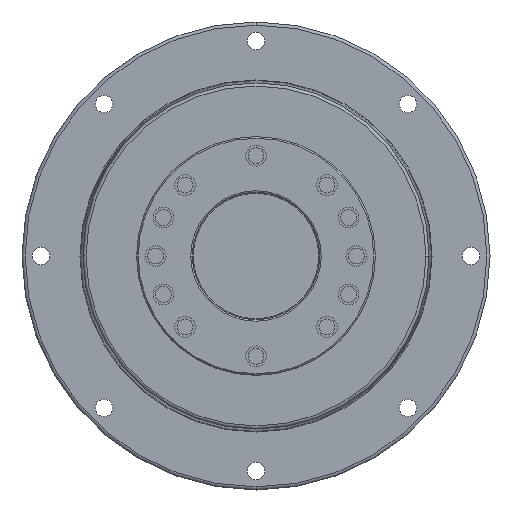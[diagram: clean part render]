
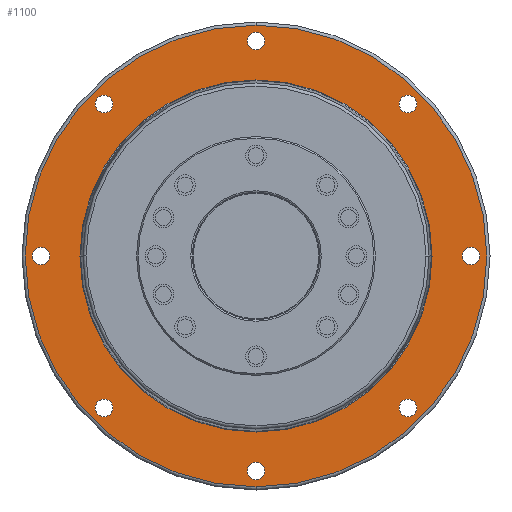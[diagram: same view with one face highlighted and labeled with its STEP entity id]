
A CAD part, left-side view. The second image highlights one B-rep face of the part: STEP entity #1100.
In plain terms, the highlighted planar face has unit normal (-1, 0, 0).
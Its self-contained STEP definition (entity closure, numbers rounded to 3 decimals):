
#273=CARTESIAN_POINT('',(22.,67.5,0.));
#274=DIRECTION('',(-1.,0.,0.));
#275=DIRECTION('',(0.,0.,1.));
#276=AXIS2_PLACEMENT_3D('',#273,#274,#275);
#278=CARTESIAN_POINT('',(22.,67.5,0.));
#279=DIRECTION('',(-1.,0.,0.));
#280=DIRECTION('',(0.,0.,-1.));
#281=AXIS2_PLACEMENT_3D('',#278,#279,#280);
#283=CARTESIAN_POINT('',(22.,47.73,47.73));
#284=DIRECTION('',(-1.,0.,0.));
#285=DIRECTION('',(0.,-0.707,0.707));
#286=AXIS2_PLACEMENT_3D('',#283,#284,#285);
#288=CARTESIAN_POINT('',(22.,47.73,47.73));
#289=DIRECTION('',(-1.,0.,0.));
#290=DIRECTION('',(0.,0.707,-0.707));
#291=AXIS2_PLACEMENT_3D('',#288,#289,#290);
#293=CARTESIAN_POINT('',(22.,0.,67.5));
#294=DIRECTION('',(-1.,0.,0.));
#295=DIRECTION('',(0.,-1.,0.));
#296=AXIS2_PLACEMENT_3D('',#293,#294,#295);
#298=CARTESIAN_POINT('',(22.,0.,67.5));
#299=DIRECTION('',(-1.,0.,0.));
#300=DIRECTION('',(0.,1.,0.));
#301=AXIS2_PLACEMENT_3D('',#298,#299,#300);
#303=CARTESIAN_POINT('',(22.,-47.73,47.73));
#304=DIRECTION('',(-1.,0.,0.));
#305=DIRECTION('',(0.,-0.707,-0.707));
#306=AXIS2_PLACEMENT_3D('',#303,#304,#305);
#308=CARTESIAN_POINT('',(22.,-47.73,47.73));
#309=DIRECTION('',(-1.,0.,0.));
#310=DIRECTION('',(0.,0.707,0.707));
#311=AXIS2_PLACEMENT_3D('',#308,#309,#310);
#313=CARTESIAN_POINT('',(22.,-67.5,0.));
#314=DIRECTION('',(-1.,0.,0.));
#315=DIRECTION('',(0.,0.,-1.));
#316=AXIS2_PLACEMENT_3D('',#313,#314,#315);
#318=CARTESIAN_POINT('',(22.,-67.5,0.));
#319=DIRECTION('',(-1.,0.,0.));
#320=DIRECTION('',(0.,0.,1.));
#321=AXIS2_PLACEMENT_3D('',#318,#319,#320);
#323=CARTESIAN_POINT('',(22.,-47.73,-47.73));
#324=DIRECTION('',(-1.,0.,0.));
#325=DIRECTION('',(0.,0.707,-0.707));
#326=AXIS2_PLACEMENT_3D('',#323,#324,#325);
#328=CARTESIAN_POINT('',(22.,-47.73,-47.73));
#329=DIRECTION('',(-1.,0.,0.));
#330=DIRECTION('',(0.,-0.707,0.707));
#331=AXIS2_PLACEMENT_3D('',#328,#329,#330);
#333=CARTESIAN_POINT('',(22.,0.,-67.5));
#334=DIRECTION('',(-1.,0.,0.));
#335=DIRECTION('',(0.,1.,0.));
#336=AXIS2_PLACEMENT_3D('',#333,#334,#335);
#338=CARTESIAN_POINT('',(22.,0.,-67.5));
#339=DIRECTION('',(-1.,0.,0.));
#340=DIRECTION('',(0.,-1.,0.));
#341=AXIS2_PLACEMENT_3D('',#338,#339,#340);
#343=CARTESIAN_POINT('',(22.,47.73,-47.73));
#344=DIRECTION('',(-1.,0.,0.));
#345=DIRECTION('',(0.,0.707,0.707));
#346=AXIS2_PLACEMENT_3D('',#343,#344,#345);
#348=CARTESIAN_POINT('',(22.,47.73,-47.73));
#349=DIRECTION('',(-1.,0.,0.));
#350=DIRECTION('',(0.,-0.707,-0.707));
#351=AXIS2_PLACEMENT_3D('',#348,#349,#350);
#353=CARTESIAN_POINT('',(22.,0.,0.));
#354=DIRECTION('',(1.,0.,0.));
#355=DIRECTION('',(0.,-1.,0.));
#356=AXIS2_PLACEMENT_3D('',#353,#354,#355);
#358=CARTESIAN_POINT('',(22.,0.,0.));
#359=DIRECTION('',(1.,0.,0.));
#360=DIRECTION('',(0.,1.,0.));
#361=AXIS2_PLACEMENT_3D('',#358,#359,#360);
#363=CARTESIAN_POINT('',(22.,0.,0.));
#364=DIRECTION('',(-1.,0.,0.));
#365=DIRECTION('',(0.,0.,-1.));
#366=AXIS2_PLACEMENT_3D('',#363,#364,#365);
#368=CARTESIAN_POINT('',(22.,0.,0.));
#369=DIRECTION('',(-1.,0.,0.));
#370=DIRECTION('',(0.,0.,1.));
#371=AXIS2_PLACEMENT_3D('',#368,#369,#370);
#612=CARTESIAN_POINT('',(22.,67.5,2.75));
#613=CARTESIAN_POINT('',(22.,67.5,-2.75));
#614=VERTEX_POINT('',#612);
#615=VERTEX_POINT('',#613);
#620=CARTESIAN_POINT('',(22.,45.785,49.674));
#621=CARTESIAN_POINT('',(22.,49.674,45.785));
#622=VERTEX_POINT('',#620);
#623=VERTEX_POINT('',#621);
#628=CARTESIAN_POINT('',(22.,-2.75,67.5));
#629=CARTESIAN_POINT('',(22.,2.75,67.5));
#630=VERTEX_POINT('',#628);
#631=VERTEX_POINT('',#629);
#636=CARTESIAN_POINT('',(22.,-49.674,45.785));
#637=CARTESIAN_POINT('',(22.,-45.785,49.674));
#638=VERTEX_POINT('',#636);
#639=VERTEX_POINT('',#637);
#644=CARTESIAN_POINT('',(22.,-67.5,-2.75));
#645=CARTESIAN_POINT('',(22.,-67.5,2.75));
#646=VERTEX_POINT('',#644);
#647=VERTEX_POINT('',#645);
#652=CARTESIAN_POINT('',(22.,-45.785,-49.674));
#653=CARTESIAN_POINT('',(22.,-49.674,-45.785));
#654=VERTEX_POINT('',#652);
#655=VERTEX_POINT('',#653);
#660=CARTESIAN_POINT('',(22.,2.75,-67.5));
#661=CARTESIAN_POINT('',(22.,-2.75,-67.5));
#662=VERTEX_POINT('',#660);
#663=VERTEX_POINT('',#661);
#668=CARTESIAN_POINT('',(22.,49.674,-45.785));
#669=CARTESIAN_POINT('',(22.,45.785,-49.674));
#670=VERTEX_POINT('',#668);
#671=VERTEX_POINT('',#669);
#720=CARTESIAN_POINT('',(22.,-55.3,0.));
#721=CARTESIAN_POINT('',(22.,55.3,0.));
#722=VERTEX_POINT('',#720);
#723=VERTEX_POINT('',#721);
#732=CARTESIAN_POINT('',(22.,0.,-72.5));
#733=CARTESIAN_POINT('',(22.,0.,72.5));
#734=VERTEX_POINT('',#732);
#735=VERTEX_POINT('',#733);
#1036=CARTESIAN_POINT('',(22.,0.,0.));
#1037=DIRECTION('',(-1.,0.,0.));
#1038=DIRECTION('',(0.,0.,1.));
#1039=AXIS2_PLACEMENT_3D('',#1036,#1037,#1038);
#1040=PLANE('',#1039);
#1042=ORIENTED_EDGE('',*,*,#1041,.F.);
#1044=ORIENTED_EDGE('',*,*,#1043,.F.);
#1045=EDGE_LOOP('',(#1042,#1044));
#1046=FACE_OUTER_BOUND('',#1045,.F.);
#1047=ORIENTED_EDGE('',*,*,#1026,.T.);
#1049=ORIENTED_EDGE('',*,*,#1048,.T.);
#1050=EDGE_LOOP('',(#1047,#1049));
#1051=FACE_BOUND('',#1050,.F.);
#1053=ORIENTED_EDGE('',*,*,#1052,.T.);
#1055=ORIENTED_EDGE('',*,*,#1054,.T.);
#1056=EDGE_LOOP('',(#1053,#1055));
#1057=FACE_BOUND('',#1056,.F.);
#1059=ORIENTED_EDGE('',*,*,#1058,.T.);
#1061=ORIENTED_EDGE('',*,*,#1060,.T.);
#1062=EDGE_LOOP('',(#1059,#1061));
#1063=FACE_BOUND('',#1062,.F.);
#1065=ORIENTED_EDGE('',*,*,#1064,.T.);
#1067=ORIENTED_EDGE('',*,*,#1066,.T.);
#1068=EDGE_LOOP('',(#1065,#1067));
#1069=FACE_BOUND('',#1068,.F.);
#1071=ORIENTED_EDGE('',*,*,#1070,.T.);
#1073=ORIENTED_EDGE('',*,*,#1072,.T.);
#1074=EDGE_LOOP('',(#1071,#1073));
#1075=FACE_BOUND('',#1074,.F.);
#1077=ORIENTED_EDGE('',*,*,#1076,.T.);
#1079=ORIENTED_EDGE('',*,*,#1078,.T.);
#1080=EDGE_LOOP('',(#1077,#1079));
#1081=FACE_BOUND('',#1080,.F.);
#1083=ORIENTED_EDGE('',*,*,#1082,.T.);
#1085=ORIENTED_EDGE('',*,*,#1084,.T.);
#1086=EDGE_LOOP('',(#1083,#1085));
#1087=FACE_BOUND('',#1086,.F.);
#1089=ORIENTED_EDGE('',*,*,#1088,.T.);
#1091=ORIENTED_EDGE('',*,*,#1090,.T.);
#1092=EDGE_LOOP('',(#1089,#1091));
#1093=FACE_BOUND('',#1092,.F.);
#1095=ORIENTED_EDGE('',*,*,#1094,.F.);
#1097=ORIENTED_EDGE('',*,*,#1096,.F.);
#1098=EDGE_LOOP('',(#1095,#1097));
#1099=FACE_BOUND('',#1098,.F.);
#1100=ADVANCED_FACE('',(#1046,#1051,#1057,#1063,#1069,#1075,#1081,#1087,#1093,
#1099),#1040,.T.);
#277=CIRCLE('',#276,2.75);
#282=CIRCLE('',#281,2.75);
#287=CIRCLE('',#286,2.75);
#292=CIRCLE('',#291,2.75);
#297=CIRCLE('',#296,2.75);
#302=CIRCLE('',#301,2.75);
#307=CIRCLE('',#306,2.75);
#312=CIRCLE('',#311,2.75);
#317=CIRCLE('',#316,2.75);
#322=CIRCLE('',#321,2.75);
#327=CIRCLE('',#326,2.75);
#332=CIRCLE('',#331,2.75);
#337=CIRCLE('',#336,2.75);
#342=CIRCLE('',#341,2.75);
#347=CIRCLE('',#346,2.75);
#352=CIRCLE('',#351,2.75);
#357=CIRCLE('',#356,55.3);
#362=CIRCLE('',#361,55.3);
#367=CIRCLE('',#366,72.5);
#372=CIRCLE('',#371,72.5);
#1026=EDGE_CURVE('',#614,#615,#277,.T.);
#1041=EDGE_CURVE('',#734,#735,#367,.T.);
#1043=EDGE_CURVE('',#735,#734,#372,.T.);
#1048=EDGE_CURVE('',#615,#614,#282,.T.);
#1052=EDGE_CURVE('',#622,#623,#287,.T.);
#1054=EDGE_CURVE('',#623,#622,#292,.T.);
#1058=EDGE_CURVE('',#630,#631,#297,.T.);
#1060=EDGE_CURVE('',#631,#630,#302,.T.);
#1064=EDGE_CURVE('',#638,#639,#307,.T.);
#1066=EDGE_CURVE('',#639,#638,#312,.T.);
#1070=EDGE_CURVE('',#646,#647,#317,.T.);
#1072=EDGE_CURVE('',#647,#646,#322,.T.);
#1076=EDGE_CURVE('',#654,#655,#327,.T.);
#1078=EDGE_CURVE('',#655,#654,#332,.T.);
#1082=EDGE_CURVE('',#662,#663,#337,.T.);
#1084=EDGE_CURVE('',#663,#662,#342,.T.);
#1088=EDGE_CURVE('',#670,#671,#347,.T.);
#1090=EDGE_CURVE('',#671,#670,#352,.T.);
#1094=EDGE_CURVE('',#722,#723,#357,.T.);
#1096=EDGE_CURVE('',#723,#722,#362,.T.);
